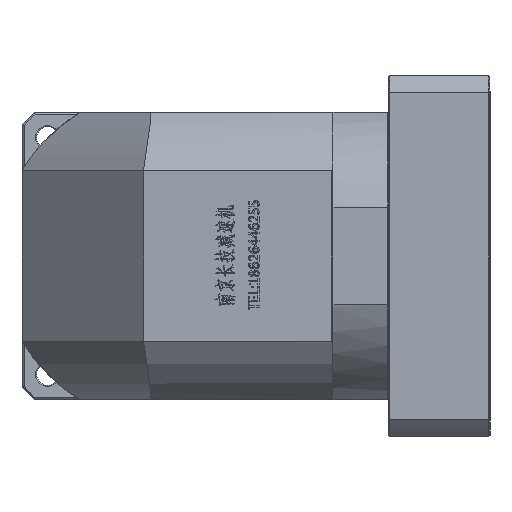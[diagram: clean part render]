
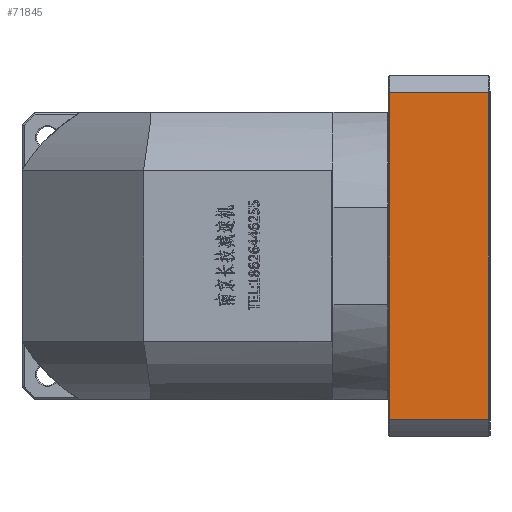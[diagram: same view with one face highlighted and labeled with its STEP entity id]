
A CAD part, left-side view. The second image highlights one B-rep face of the part: STEP entity #71845.
In plain terms, the highlighted planar face has unit normal (-1, 0, 0).
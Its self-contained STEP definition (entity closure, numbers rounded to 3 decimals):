
#10680 = CARTESIAN_POINT ( 'NONE',  ( -128.29, -200.308, 155.747 ) ) ;
#20600 = CARTESIAN_POINT ( 'NONE',  ( -128.29, -199.808, 325.24 ) ) ;
#22136 = ORIENTED_EDGE ( 'NONE', *, *, #56994, .F. ) ;
#23700 = PLANE ( 'NONE',  #49627 ) ;
#25856 = VERTEX_POINT ( 'NONE', #20600 ) ;
#33345 = EDGE_CURVE ( 'NONE', #25856, #109083, #94510, .T. ) ;
#33551 = LINE ( 'NONE', #123298, #103295 ) ;
#35526 = DIRECTION ( 'NONE',  ( 0., 1., 0. ) ) ;
#43672 = VECTOR ( 'NONE', #158382, 1000. ) ;
#48472 = CARTESIAN_POINT ( 'NONE',  ( -128.29, 192.497, 325.24 ) ) ;
#49627 = AXIS2_PLACEMENT_3D ( 'NONE', #10680, #145403, #35526 ) ;
#56994 = EDGE_CURVE ( 'NONE', #109083, #146582, #154913, .T. ) ;
#57137 = VERTEX_POINT ( 'NONE', #89485 ) ;
#71845 = ADVANCED_FACE ( 'NONE', ( #84955 ), #23700, .F. ) ;
#78678 = VECTOR ( 'NONE', #108435, 1000. ) ;
#83667 = DIRECTION ( 'NONE',  ( 0., 0., -1. ) ) ;
#83779 = CARTESIAN_POINT ( 'NONE',  ( -128.29, -150.808, 164.255 ) ) ;
#84955 = FACE_OUTER_BOUND ( 'NONE', #173327, .T. ) ;
#89485 = CARTESIAN_POINT ( 'NONE',  ( -128.29, -150.808, 325.24 ) ) ;
#91973 = ORIENTED_EDGE ( 'NONE', *, *, #100868, .F. ) ;
#94400 = ORIENTED_EDGE ( 'NONE', *, *, #169698, .F. ) ;
#94510 = LINE ( 'NONE', #136876, #174825 ) ;
#100868 = EDGE_CURVE ( 'NONE', #146582, #57137, #33551, .T. ) ;
#103295 = VECTOR ( 'NONE', #136928, 1000. ) ;
#108435 = DIRECTION ( 'NONE',  ( 0., 1., 0. ) ) ;
#109083 = VERTEX_POINT ( 'NONE', #120693 ) ;
#115537 = LINE ( 'NONE', #48472, #43672 ) ;
#120693 = CARTESIAN_POINT ( 'NONE',  ( -128.29, -199.808, 164.255 ) ) ;
#123298 = CARTESIAN_POINT ( 'NONE',  ( -128.29, -150.808, 155.747 ) ) ;
#136845 = CARTESIAN_POINT ( 'NONE',  ( -128.29, 192.497, 164.255 ) ) ;
#136876 = CARTESIAN_POINT ( 'NONE',  ( -128.29, -199.808, 173.747 ) ) ;
#136928 = DIRECTION ( 'NONE',  ( 0., 0., 1. ) ) ;
#137611 = ORIENTED_EDGE ( 'NONE', *, *, #33345, .F. ) ;
#145403 = DIRECTION ( 'NONE',  ( 1., 0., 0. ) ) ;
#146582 = VERTEX_POINT ( 'NONE', #83779 ) ;
#154913 = LINE ( 'NONE', #136845, #78678 ) ;
#158382 = DIRECTION ( 'NONE',  ( 0., -1., 0. ) ) ;
#169698 = EDGE_CURVE ( 'NONE', #57137, #25856, #115537, .T. ) ;
#173327 = EDGE_LOOP ( 'NONE', ( #94400, #91973, #22136, #137611 ) ) ;
#174825 = VECTOR ( 'NONE', #83667, 1000. ) ;
